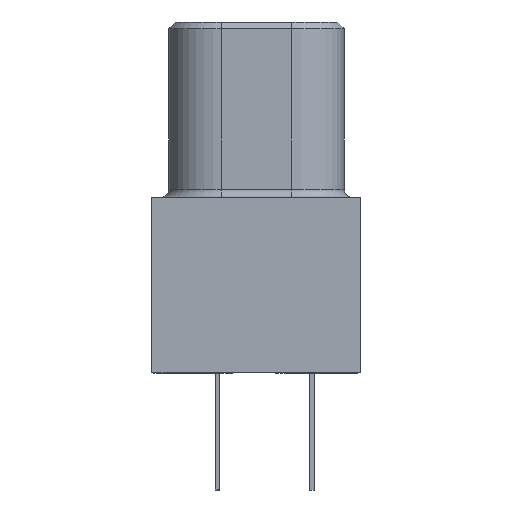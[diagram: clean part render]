
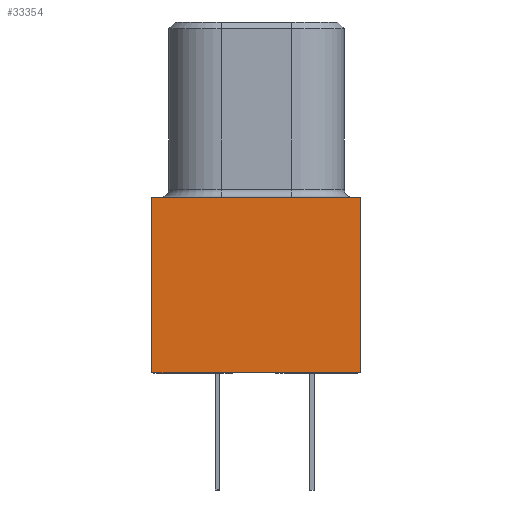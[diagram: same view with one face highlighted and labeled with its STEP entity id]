
A CAD part, left-side view. The second image highlights one B-rep face of the part: STEP entity #33354.
In plain terms, the highlighted planar face has unit normal (-1, 0, 0).
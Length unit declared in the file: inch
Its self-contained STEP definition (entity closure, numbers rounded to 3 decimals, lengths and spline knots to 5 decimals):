
#140 = DIRECTION ( 'NONE',  ( 0., 0., -1. ) ) ;
#341 = VERTEX_POINT ( 'NONE', #15758 ) ;
#388 = LINE ( 'NONE', #23700, #27533 ) ;
#564 = PLANE ( 'NONE',  #37644 ) ;
#2084 = DIRECTION ( 'NONE',  ( 0., 0., -1. ) ) ;
#3202 = CARTESIAN_POINT ( 'NONE',  ( -0.3625, -0.0575, -0.105 ) ) ;
#3581 = VECTOR ( 'NONE', #140, 39.37008 ) ;
#5690 = VECTOR ( 'NONE', #7271, 39.37008 ) ;
#7271 = DIRECTION ( 'NONE',  ( 0., -1., 0. ) ) ;
#8580 = VERTEX_POINT ( 'NONE', #12423 ) ;
#11198 = EDGE_CURVE ( 'NONE', #13129, #341, #13240, .T. ) ;
#12096 = DIRECTION ( 'NONE',  ( 0., -1., 0. ) ) ;
#12423 = CARTESIAN_POINT ( 'NONE',  ( -0.3625, 0.0675, -0.105 ) ) ;
#13129 = VERTEX_POINT ( 'NONE', #21115 ) ;
#13240 = LINE ( 'NONE', #24968, #5690 ) ;
#15022 = FACE_OUTER_BOUND ( 'NONE', #25688, .T. ) ;
#15489 = EDGE_CURVE ( 'NONE', #341, #35398, #388, .T. ) ;
#15758 = CARTESIAN_POINT ( 'NONE',  ( -0.3625, -0.0575, 0. ) ) ;
#19618 = EDGE_CURVE ( 'NONE', #13129, #8580, #25602, .T. ) ;
#20143 = ORIENTED_EDGE ( 'NONE', *, *, #29240, .T. ) ;
#21115 = CARTESIAN_POINT ( 'NONE',  ( -0.3625, 0.0675, 0. ) ) ;
#21738 = DIRECTION ( 'NONE',  ( 1., 0., 0. ) ) ;
#23700 = CARTESIAN_POINT ( 'NONE',  ( -0.3625, -0.0575, 0.105 ) ) ;
#23733 = ORIENTED_EDGE ( 'NONE', *, *, #11198, .F. ) ;
#24968 = CARTESIAN_POINT ( 'NONE',  ( -0.3625, -0.0575, 0. ) ) ;
#25171 = CARTESIAN_POINT ( 'NONE',  ( -0.3625, -0.0575, 0.105 ) ) ;
#25602 = LINE ( 'NONE', #37410, #3581 ) ;
#25688 = EDGE_LOOP ( 'NONE', ( #23733, #35879, #20143, #35875 ) ) ;
#26371 = CARTESIAN_POINT ( 'NONE',  ( -0.3625, -0.0575, -0.105 ) ) ;
#27533 = VECTOR ( 'NONE', #35301, 39.37008 ) ;
#27575 = VECTOR ( 'NONE', #12096, 39.37008 ) ;
#29240 = EDGE_CURVE ( 'NONE', #8580, #35398, #37995, .T. ) ;
#33354 = ADVANCED_FACE ( 'NONE', ( #15022 ), #564, .F. ) ;
#35301 = DIRECTION ( 'NONE',  ( 0., 0., -1. ) ) ;
#35398 = VERTEX_POINT ( 'NONE', #3202 ) ;
#35875 = ORIENTED_EDGE ( 'NONE', *, *, #15489, .F. ) ;
#35879 = ORIENTED_EDGE ( 'NONE', *, *, #19618, .T. ) ;
#37410 = CARTESIAN_POINT ( 'NONE',  ( -0.3625, 0.0675, 0.105 ) ) ;
#37644 = AXIS2_PLACEMENT_3D ( 'NONE', #25171, #21738, #2084 ) ;
#37995 = LINE ( 'NONE', #26371, #27575 ) ;
